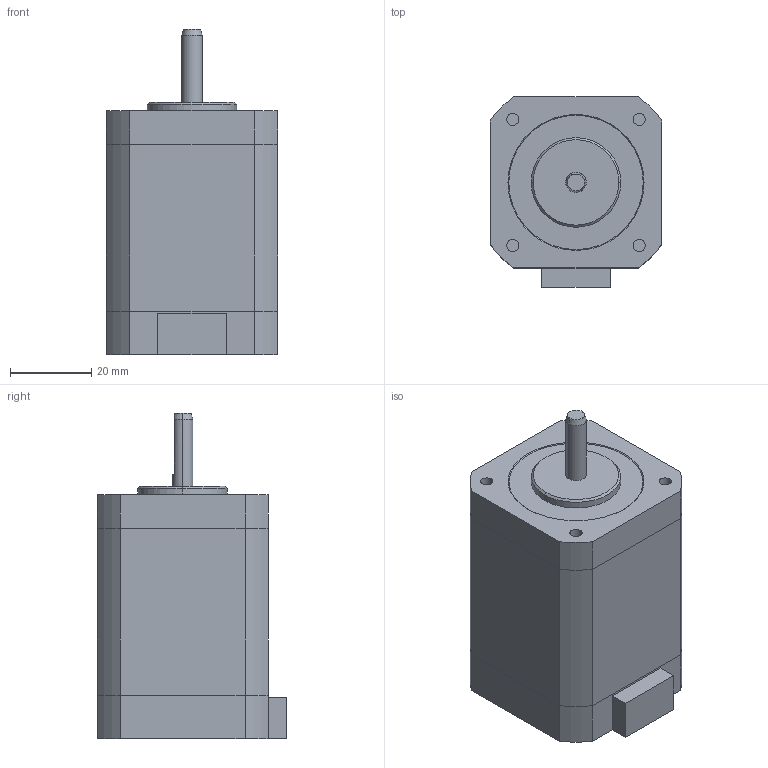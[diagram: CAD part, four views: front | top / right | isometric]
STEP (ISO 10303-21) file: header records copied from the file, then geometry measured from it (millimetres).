
FILE_DESCRIPTION (( 'STEP AP203' ), '1' );
FILE_NAME ('PMSB-仭42D5仭_3D.STEP', '2021-01-22T07:34:07', ( '' ), ( '' ), 'SwSTEP 2.0', 'SolidWorks 2018', '' );
FILE_SCHEMA (( 'CONFIG_CONTROL_DESIGN' ));
Length unit declared in the file: millimetre
Products named in the file (1): PMSB-仭42D5仭_3D
Bounding box: 42 x 46.6 x 80 mm (x, y, z)
Volume: 104031.3 mm3; surface area: 20703.1 mm2
Topology: 4 solids, 4 shells, 64 faces, 143 edges, 94 vertices
Faces by surface type: plane 33, cylinder 24, cone 7
Entity records: 1875 total; most frequent: DIRECTION 330, CARTESIAN_POINT 316, ORIENTED_EDGE 286, EDGE_CURVE 143, AXIS2_PLACEMENT_3D 124, VERTEX_POINT 94, LINE 82, VECTOR 82
